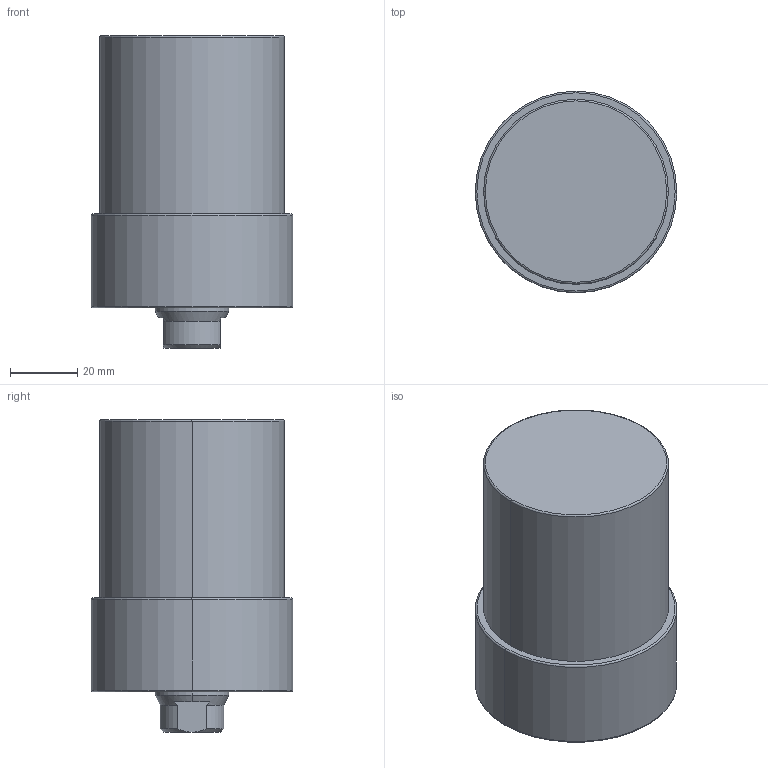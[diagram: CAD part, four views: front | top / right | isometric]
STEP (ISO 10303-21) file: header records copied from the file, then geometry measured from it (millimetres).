
FILE_DESCRIPTION (( 'STEP AP203' ), '1' );
FILE_NAME ('CLLU055-CA-040.STEP', '2017-05-12T11:07:03', ( '' ), ( '' ), 'SwSTEP 2.0', 'SolidWorks 2015', '' );
FILE_SCHEMA (( 'CONFIG_CONTROL_DESIGN' ));
Length unit declared in the file: millimetre
Products named in the file (1): CLLU055-CA-040
Bounding box: 60 x 60 x 93 mm (x, y, z)
Volume: 205420 mm3; surface area: 22480.4 mm2
Topology: 1 solids, 1 shells, 62 faces, 138 edges, 77 vertices
Faces by surface type: cone 24, cylinder 22, plane 10, torus 6
Entity records: 1745 total; most frequent: DIRECTION 318, CARTESIAN_POINT 308, ORIENTED_EDGE 256, AXIS2_PLACEMENT_3D 135, EDGE_CURVE 128, VERTEX_POINT 77, CIRCLE 72, EDGE_LOOP 71
